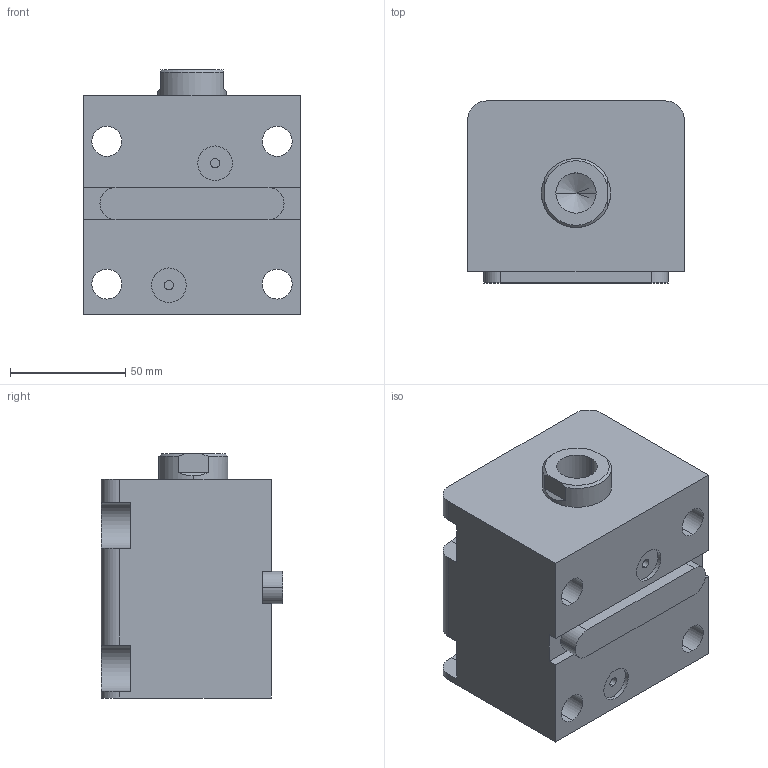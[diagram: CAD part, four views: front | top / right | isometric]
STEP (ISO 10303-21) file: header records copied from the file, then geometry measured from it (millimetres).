
FILE_DESCRIPTION (( 'STEP AP203' ), '1' );
FILE_NAME ('HTB-LAM50-35N.STEP', '2023-03-20T00:51:47', ( '微软用户' ), ( '微软中国' ), 'SwSTEP 2.0', 'SolidWorks 2012', '' );
FILE_SCHEMA (( 'CONFIG_CONTROL_DESIGN' ));
Length unit declared in the file: millimetre
Products named in the file (4): HTB-LAM50-35N; HTB-LWM50-瑩; HTB-LAM50-35N活塞杆; HTB-LAM50-35掛极
Assembly tree (3 placements, depth 2):
  HTB-LAM50-35N
    HTB-LAM50-35掛极
    HTB-LAM50-35N活塞杆
    HTB-LWM50-瑩
Bounding box: 94 x 79 x 106 mm (x, y, z)
Volume: 568797.9 mm3; surface area: 90147.7 mm2
Topology: 3 solids, 3 shells, 86 faces, 213 edges, 139 vertices
Faces by surface type: cylinder 39, plane 39, torus 4, cone 4
Entity records: 3001 total; most frequent: DIRECTION 475, CARTESIAN_POINT 470, ORIENTED_EDGE 422, EDGE_CURVE 211, AXIS2_PLACEMENT_3D 180, VERTEX_POINT 139, LINE 115, VECTOR 115
